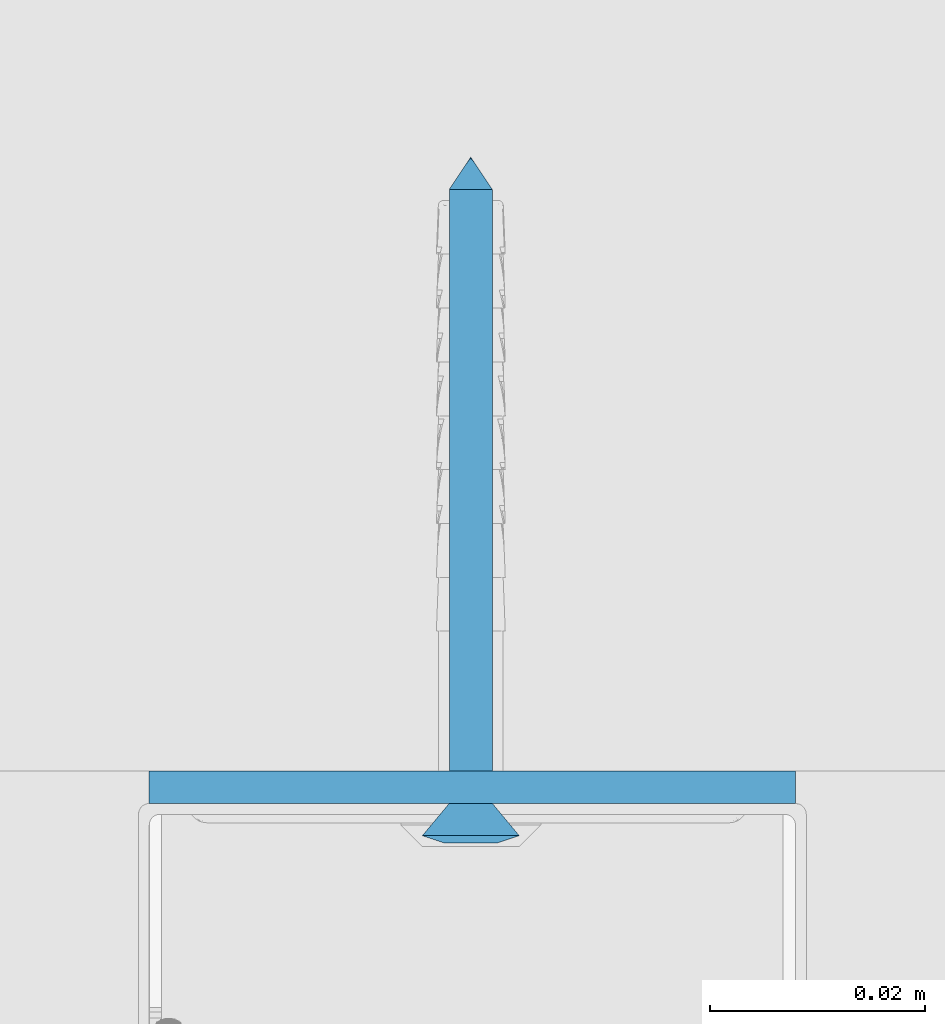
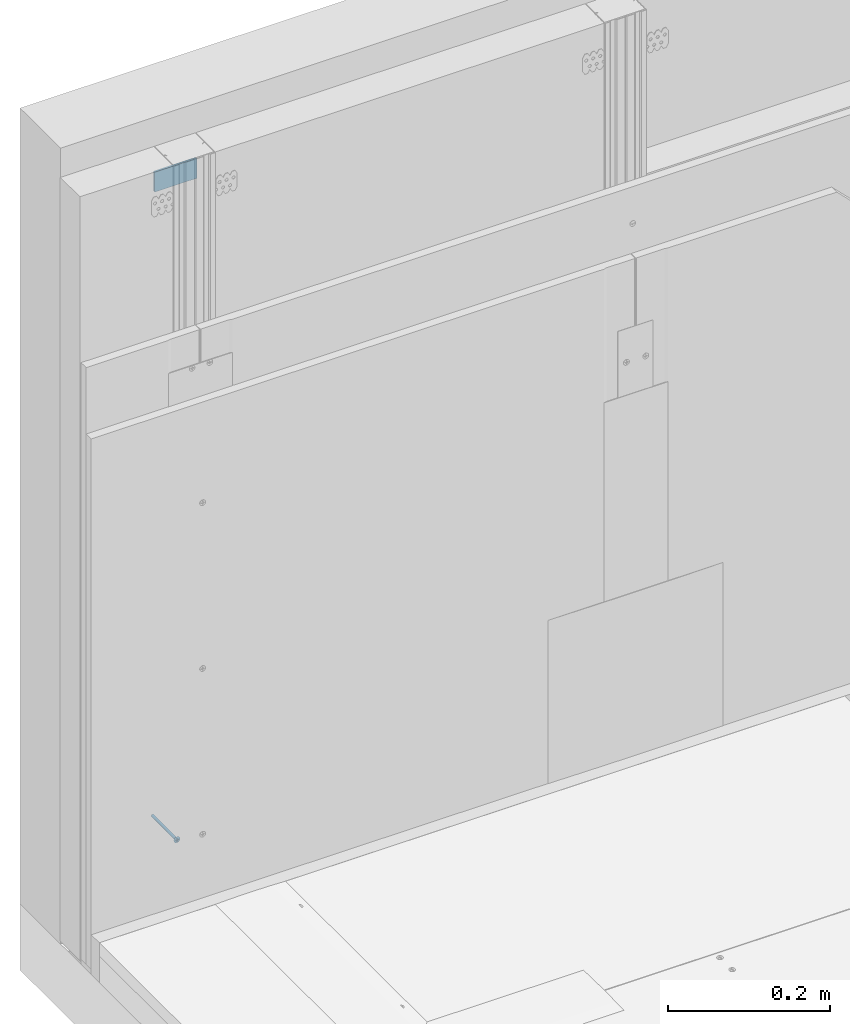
# One storey, part 32 of 47: 2 walls.
"""IFC2X3 building model written with IfcOpenShell, lengths in millimetres."""

from ifc_helpers import new_model, entity, si_unit, converted_unit, direction, frame, origin, origin_with_axes, place, context, project, spatial, faceted_brep, element, save


model = new_model("IFC2X3")

# Units and contexts
model_context = context("Model", 3, precision=1e-05, world=origin(), true_north=direction((0.0, 1.0, 0.0)))
ifc_project = project(units=[si_unit("LENGTHUNIT", "METRE", prefix="MILLI"), si_unit("AREAUNIT", "SQUARE_METRE"), si_unit("VOLUMEUNIT", "CUBIC_METRE"), converted_unit("PLANEANGLEUNIT", "DEGREE", entity("IfcPlaneAngleMeasure", 0.01745), si_unit("PLANEANGLEUNIT", "RADIAN"), dimensions=[0, 0, 0, 0, 0, 0, 0]), si_unit("SOLIDANGLEUNIT", "STERADIAN"), si_unit("MASSUNIT", "GRAM"), si_unit("TIMEUNIT", "SECOND"), si_unit("THERMODYNAMICTEMPERATUREUNIT", "DEGREE_CELSIUS"), si_unit("LUMINOUSINTENSITYUNIT", "LUMEN")], contexts=[model_context])

# Site, building, storey
site_placement = place(None, origin_with_axes())
site = spatial("IfcSite", under=ifc_project, at=site_placement, Name="Default Site", CompositionType="ELEMENT")
building_placement = place(site_placement, origin_with_axes())
building = spatial("IfcBuilding", under=site, at=building_placement, Name="Default Building", CompositionType="ELEMENT")
storey_placement = place(building_placement, origin_with_axes())
storey = spatial("IfcBuildingStorey", under=building, at=storey_placement, Name="Default Building Storey", CompositionType="ELEMENT", Elevation=0.0)

# Walls
wall_1_placement = place(storey_placement, frame((2258.12456361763, 2019.778611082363, 1120.960248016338), z_axis=(0.0, 0.0, 1.0), x_axis=(1.0, 0.0, 0.0)))
element("IfcWall", 1, at=wall_1_placement, inside=storey, Name="Taśma uszczelniająca piankowa RIGIPS szer.30mm", context=model_context, shape_type="Brep", body=[
    faceted_brep([(59.99999999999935, 0.0, 4.511946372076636e-12), (0.0, 0.0, 0.0), (1.082867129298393e-12, -2.237925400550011e-11, -30.00000000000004), (60.00000000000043, -2.237925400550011e-11, -29.99999999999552), (0.0, 3.00000000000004, 0.0), (1.082867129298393e-12, 2.999999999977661, -30.00000000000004), (60.00000000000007, 3.00000000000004, 0.0), (60.00000000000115, 2.999999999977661, -30.00000000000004)], [[[0, 1, 2, 3]], [[1, 4, 5, 2]], [[4, 6, 7, 5]], [[6, 0, 3, 7]], [[7, 3, 2, 5]], [[0, 6, 4, 1]]]),
])
wall_2_placement = place(storey_placement, frame((5741.263760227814, 2016.32861108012, 1539.671890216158), z_axis=(-6.858158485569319e-13, -1.0, 7.642380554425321e-14), x_axis=(-1.647602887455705e-11, 7.642380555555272e-14, 1.0)))
element("IfcWall", 2, at=wall_2_placement, inside=storey, Name="Kołek rozporowy min. fi 6", context=model_context, shape_type="Brep", body=[
    faceted_brep([(-1438.31414949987, 3453.283223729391, -0.4642567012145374), (-1435.814149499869, 3453.283223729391, -3.464256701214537), (-1435.78952618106, 3452.97035479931, -3.464256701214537), (-1438.258747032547, 3452.57926863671, -0.4642567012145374), (-1435.71626253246, 3452.665189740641, -3.464256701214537), (-1438.093903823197, 3451.892647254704, -0.4642567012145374), (-1435.596162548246, 3452.375242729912, -3.464256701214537), (-1437.823678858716, 3451.240266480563, -0.4642567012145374), (-1435.432183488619, 3452.107653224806, -3.464256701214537), (-1437.454725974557, 3450.638190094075, -0.4642567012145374), (-1435.228363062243, 3451.869010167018, -3.464256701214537), (-1436.996130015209, 3450.101243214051, -0.4642567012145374), (-1434.989720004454, 3451.665189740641, -3.464256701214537), (-1436.459183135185, 3449.642647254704, -0.4642567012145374), (-1434.722130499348, 3451.501210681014, -3.464256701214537), (-1435.857106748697, 3449.273694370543, -0.4642567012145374), (-1434.432183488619, 3451.381110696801, -3.464256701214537), (-1435.204725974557, 3449.003469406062, -0.4642567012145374), (-1434.12701842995, 3451.307847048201, -3.464256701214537), (-1434.51810459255, 3448.838626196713, -0.4642567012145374), (-1433.814149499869, 3451.283223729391, -3.464256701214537), (-1433.814149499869, 3448.783223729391, -0.4642567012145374), (-1433.501280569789, 3451.307847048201, -3.464256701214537), (-1433.110194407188, 3448.838626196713, -0.4642567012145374), (-1433.19611551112, 3451.381110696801, -3.464256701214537), (-1432.423573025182, 3449.003469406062, -0.4642567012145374), (-1432.906168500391, 3451.501210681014, -3.464256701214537), (-1431.771192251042, 3449.273694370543, -0.4642567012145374), (-1432.638578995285, 3451.665189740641, -3.464256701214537), (-1431.169115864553, 3449.642647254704, -0.4642567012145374), (-1432.399935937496, 3451.869010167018, -3.464256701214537), (-1430.63216898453, 3450.101243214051, -0.4642567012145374), (-1432.196115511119, 3452.107653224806, -3.464256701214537), (-1430.173573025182, 3450.638190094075, -0.4642567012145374), (-1432.032136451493, 3452.375242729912, -3.464256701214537), (-1429.804620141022, 3451.240266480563, -0.4642567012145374), (-1431.912036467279, 3452.665189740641, -3.464256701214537), (-1429.534395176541, 3451.892647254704, -0.4642567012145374), (-1431.838772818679, 3453.596092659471, -3.464256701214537), (-1429.369551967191, 3453.987178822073, -0.4642567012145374), (-1429.314149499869, 3453.283223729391, -0.4642567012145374), (-1431.81414949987, 3453.283223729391, -3.464256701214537), (-1429.369551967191, 3452.57926863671, -0.4642567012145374), (-1431.838772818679, 3452.97035479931, -3.464256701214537), (-1431.912036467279, 3453.901257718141, -3.464256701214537), (-1429.534395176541, 3454.673800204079, -0.4642567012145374), (-1432.032136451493, 3454.19120472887, -3.464256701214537), (-1429.804620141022, 3455.326180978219, -0.4642567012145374), (-1432.196115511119, 3454.458794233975, -3.464256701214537), (-1430.173573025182, 3455.928257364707, -0.4642567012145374), (-1432.399935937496, 3454.697437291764, -3.464256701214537), (-1430.63216898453, 3456.465204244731, -0.4642567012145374), (-1432.638578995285, 3454.901257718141, -3.464256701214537), (-1431.169115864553, 3456.923800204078, -0.4642567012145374), (-1432.906168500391, 3455.065236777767, -3.464256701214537), (-1431.771192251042, 3457.292753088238, -0.4642567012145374), (-1433.19611551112, 3455.185336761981, -3.464256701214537), (-1432.423573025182, 3457.562978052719, -0.4642567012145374), (-1433.501280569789, 3455.258600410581, -3.464256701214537), (-1433.110194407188, 3457.727821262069, -0.4642567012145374), (-1433.814149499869, 3455.283223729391, -3.464256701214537), (-1433.814149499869, 3457.783223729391, -0.4642567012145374), (-1434.34306778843, 3457.752031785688, -0.4642567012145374), (-1434.12701842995, 3455.258600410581, -3.464256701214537), (-1434.432183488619, 3455.185336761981, -3.464256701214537), (-1434.864653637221, 3457.658888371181, -0.4642567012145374), (-1435.371676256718, 3457.505084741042, -0.4642567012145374), (-1434.722130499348, 3455.065236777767, -3.464256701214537), (-1435.857106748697, 3457.292753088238, -0.4642567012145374), (-1434.989720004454, 3454.901257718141, -3.464256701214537), (-1435.228363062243, 3454.697437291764, -3.464256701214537), (-1436.314215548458, 3457.024836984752, -0.4642567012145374), (-1436.736665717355, 3456.705050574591, -0.4642567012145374), (-1437.11860079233, 3456.337827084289, -0.4642567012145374), (-1437.454725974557, 3455.928257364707, -0.4642567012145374), (-1435.432183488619, 3454.458794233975, -3.464256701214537), (-1435.596162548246, 3454.19120472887, -3.464256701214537), (-1437.823678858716, 3455.326180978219, -0.4642567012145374), (-1435.71626253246, 3453.901257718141, -3.464256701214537), (-1438.093903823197, 3454.673800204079, -0.4642567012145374), (-1435.78952618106, 3453.596092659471, -3.464256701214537), (-1438.258747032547, 3453.987178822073, -0.4642567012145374), (-1434.205235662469, 3455.752444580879, 0.2007375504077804), (-1433.814149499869, 3455.78322372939, 0.2007375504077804), (-1434.586691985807, 3455.660865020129, 0.2007375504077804), (-1434.949125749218, 3455.510740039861, 0.2007375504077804), (-1435.283612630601, 3455.305766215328, 0.2007375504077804), (-1435.581916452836, 3455.050990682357, 0.2007375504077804), (-1435.836691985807, 3454.752686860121, 0.2007375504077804), (-1436.04166581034, 3454.41819997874, 0.2007375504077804), (-1436.191790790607, 3454.055766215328, 0.2007375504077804), (-1436.283370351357, 3453.674309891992, 0.2007375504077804), (-1436.314149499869, 3453.283223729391, 0.2007375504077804), (-1436.283370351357, 3452.892137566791, 0.2007375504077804), (-1436.191790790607, 3452.510681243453, 0.2007375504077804), (-1436.04166581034, 3452.148247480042, 0.2007375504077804), (-1435.836691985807, 3451.81376059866, 0.200737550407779), (-1435.581916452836, 3451.515456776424, 0.2007375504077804), (-1435.283612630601, 3451.260681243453, 0.2007375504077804), (-1434.949125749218, 3451.05570741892, 0.2007375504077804), (-1434.586691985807, 3450.905582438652, 0.2007375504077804), (-1433.423063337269, 3450.814002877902, 0.2007375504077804), (-1433.814149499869, 3450.783223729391, 0.2007375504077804), (-1434.205235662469, 3450.814002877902, 0.2007375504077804), (-1433.041607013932, 3450.905582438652, 0.2007375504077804), (-1432.67917325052, 3451.05570741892, 0.2007375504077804), (-1432.344686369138, 3451.260681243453, 0.2007375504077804), (-1432.046382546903, 3451.515456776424, 0.2007375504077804), (-1431.791607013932, 3451.81376059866, 0.2007375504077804), (-1431.586633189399, 3452.148247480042, 0.2007375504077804), (-1431.436508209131, 3452.510681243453, 0.2007375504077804), (-1431.344928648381, 3452.892137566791, 0.2007375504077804), (-1431.314149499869, 3453.283223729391, 0.2007375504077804), (-1431.344928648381, 3453.674309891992, 0.2007375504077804), (-1431.436508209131, 3454.055766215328, 0.2007375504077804), (-1431.586633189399, 3454.41819997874, 0.2007375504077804), (-1431.791607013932, 3454.752686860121, 0.2007375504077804), (-1432.046382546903, 3455.050990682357, 0.2007375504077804), (-1432.344686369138, 3455.305766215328, 0.2007375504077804), (-1432.67917325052, 3455.510740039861, 0.2007375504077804), (-1433.041607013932, 3455.660865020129, 0.2007375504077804), (-1433.423063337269, 3455.752444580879, 0.2007375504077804), (-1433.814149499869, 3453.283223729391, -63.46425670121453), (-1435.789526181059, 3452.97035479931, -60.46425670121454), (-1435.814149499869, 3453.283223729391, -60.46425670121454), (-1435.716262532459, 3452.665189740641, -60.46425670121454), (-1435.596162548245, 3452.375242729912, -60.46425670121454), (-1435.432183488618, 3452.107653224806, -60.46425670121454), (-1435.228363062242, 3451.869010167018, -60.46425670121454), (-1434.989720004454, 3451.665189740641, -60.46425670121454), (-1434.722130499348, 3451.501210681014, -60.46425670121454), (-1434.432183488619, 3451.381110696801, -60.46425670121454), (-1434.127018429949, 3451.307847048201, -60.46425670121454), (-1433.814149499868, 3451.283223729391, -60.46425670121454), (-1433.501280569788, 3451.307847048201, -60.46425670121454), (-1433.196115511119, 3451.381110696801, -60.46425670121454), (-1432.90616850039, 3451.501210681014, -60.46425670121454), (-1432.638578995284, 3451.665189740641, -60.46425670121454), (-1432.399935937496, 3451.869010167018, -60.46425670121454), (-1432.196115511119, 3452.107653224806, -60.46425670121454), (-1432.032136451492, 3452.375242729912, -60.46425670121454), (-1431.912036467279, 3452.665189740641, -60.46425670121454), (-1431.838772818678, 3452.97035479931, -60.46425670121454), (-1431.814149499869, 3453.283223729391, -60.46425670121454), (-1431.838772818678, 3453.596092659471, -60.46425670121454), (-1431.912036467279, 3453.901257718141, -60.46425670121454), (-1432.032136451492, 3454.19120472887, -60.46425670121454), (-1432.196115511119, 3454.458794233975, -60.46425670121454), (-1432.399935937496, 3454.697437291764, -60.46425670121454), (-1432.638578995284, 3454.901257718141, -60.46425670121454), (-1432.90616850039, 3455.065236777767, -60.46425670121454), (-1433.196115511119, 3455.185336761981, -60.46425670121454), (-1433.501280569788, 3455.258600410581, -60.46425670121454), (-1433.814149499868, 3455.283223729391, -60.46425670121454), (-1434.127018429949, 3455.258600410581, -60.46425670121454), (-1434.432183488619, 3455.185336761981, -60.46425670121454), (-1434.722130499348, 3455.065236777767, -60.46425670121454), (-1434.989720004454, 3454.901257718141, -60.46425670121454), (-1435.228363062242, 3454.697437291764, -60.46425670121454), (-1435.432183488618, 3454.458794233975, -60.46425670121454), (-1435.596162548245, 3454.19120472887, -60.46425670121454), (-1435.716262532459, 3453.901257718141, -60.46425670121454), (-1435.789526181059, 3453.596092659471, -60.46425670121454), (-1435.814149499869, 3453.783223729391, 0.04999999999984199), (-1436.04166581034, 3454.41819997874, 0.04999999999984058), (-1436.191790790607, 3454.055766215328, 0.04999999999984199), (-1435.814149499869, 3452.783223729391, 0.04999999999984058), (-1434.314149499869, 3453.783223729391, 0.04999999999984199), (-1434.314149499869, 3455.28322372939, 0.04999999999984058), (-1433.314149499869, 3455.28322372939, 0.04999999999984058), (-1433.314149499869, 3453.783223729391, 0.04999999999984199), (-1431.814149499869, 3453.783223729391, 0.04999999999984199), (-1431.814149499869, 3452.783223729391, 0.04999999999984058), (-1433.314149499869, 3452.783223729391, 0.04999999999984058), (-1433.314149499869, 3451.283223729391, 0.04999999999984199), (-1434.314149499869, 3451.283223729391, 0.04999999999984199), (-1434.314149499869, 3452.783223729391, 0.04999999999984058), (-1436.283370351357, 3453.674309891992, 0.04999999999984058), (-1436.314149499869, 3453.283223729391, 0.04999999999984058), (-1436.283370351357, 3452.892137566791, 0.04999999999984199), (-1436.191790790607, 3452.510681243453, 0.04999999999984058), (-1436.04166581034, 3452.148247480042, 0.04999999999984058), (-1435.836691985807, 3451.81376059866, 0.04999999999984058), (-1435.581916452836, 3451.515456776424, 0.04999999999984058), (-1435.283612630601, 3451.260681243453, 0.04999999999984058), (-1434.949125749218, 3451.05570741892, 0.04999999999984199), (-1434.586691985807, 3450.905582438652, 0.04999999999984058), (-1434.205235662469, 3450.814002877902, 0.04999999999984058), (-1433.814149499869, 3450.783223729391, 0.04999999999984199), (-1433.423063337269, 3450.814002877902, 0.04999999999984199), (-1433.041607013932, 3450.905582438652, 0.04999999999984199), (-1432.67917325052, 3451.05570741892, 0.04999999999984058), (-1432.344686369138, 3451.260681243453, 0.04999999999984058), (-1432.046382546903, 3451.515456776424, 0.04999999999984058), (-1431.791607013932, 3451.81376059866, 0.04999999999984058), (-1431.586633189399, 3452.148247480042, 0.04999999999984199), (-1431.436508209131, 3452.510681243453, 0.04999999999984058), (-1431.344928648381, 3452.892137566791, 0.04999999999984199), (-1431.314149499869, 3453.283223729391, 0.04999999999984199), (-1431.344928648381, 3453.674309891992, 0.04999999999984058), (-1431.436508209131, 3454.055766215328, 0.04999999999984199), (-1431.586633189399, 3454.41819997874, 0.04999999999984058), (-1431.791607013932, 3454.752686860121, 0.04999999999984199), (-1432.046382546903, 3455.050990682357, 0.04999999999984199), (-1432.344686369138, 3455.305766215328, 0.04999999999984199), (-1432.67917325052, 3455.510740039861, 0.04999999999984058), (-1433.041607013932, 3455.660865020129, 0.04999999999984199), (-1433.423063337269, 3455.752444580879, 0.04999999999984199), (-1433.814149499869, 3455.78322372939, 0.04999999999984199), (-1434.205235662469, 3455.752444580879, 0.04999999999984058), (-1434.586691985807, 3455.660865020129, 0.04999999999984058), (-1434.949125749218, 3455.510740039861, 0.04999999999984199), (-1435.283612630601, 3455.305766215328, 0.04999999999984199), (-1435.581916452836, 3455.050990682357, 0.04999999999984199), (-1435.836691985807, 3454.752686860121, 0.04999999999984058), (-1434.314149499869, 3452.783223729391, -1.79926244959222), (-1434.314149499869, 3451.283223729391, -1.799262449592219), (-1433.314149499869, 3451.283223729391, -1.799262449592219), (-1433.314149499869, 3452.783223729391, -1.79926244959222), (-1431.81414949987, 3452.783223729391, -1.79926244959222), (-1431.81414949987, 3453.783223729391, -1.799262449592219), (-1433.314149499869, 3453.783223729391, -1.799262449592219), (-1433.314149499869, 3455.28322372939, -1.79926244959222), (-1434.314149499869, 3455.28322372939, -1.79926244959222), (-1434.314149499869, 3453.783223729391, -1.799262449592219), (-1435.814149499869, 3453.783223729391, -1.799262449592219), (-1435.814149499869, 3452.783223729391, -1.79926244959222)], [[[0, 1, 2, 3]], [[4, 5, 3, 2]], [[6, 7, 5, 4]], [[7, 6, 8, 9]], [[10, 11, 9, 8]], [[11, 10, 12, 13]], [[14, 15, 13, 12]], [[16, 17, 15, 14]], [[17, 16, 18, 19]], [[20, 21, 19, 18]], [[21, 20, 22, 23]], [[24, 25, 23, 22]], [[26, 27, 25, 24]], [[27, 26, 28, 29]], [[30, 31, 29, 28]], [[31, 30, 32, 33]], [[34, 35, 33, 32]], [[36, 37, 35, 34]], [[38, 39, 40, 41]], [[41, 40, 42, 43]], [[37, 36, 43, 42]], [[44, 45, 39, 38]], [[46, 47, 45, 44]], [[47, 46, 48, 49]], [[50, 51, 49, 48]], [[51, 50, 52, 53]], [[54, 55, 53, 52]], [[56, 57, 55, 54]], [[57, 56, 58, 59]], [[60, 61, 59, 58]], [[62, 61, 63]], [[61, 60, 63]], [[63, 64, 62]], [[64, 65, 62]], [[66, 65, 64]], [[64, 67, 66]], [[67, 68, 66]], [[69, 70, 71]], [[70, 72, 71]], [[71, 68, 69]], [[68, 67, 69]], [[70, 73, 72]], [[74, 73, 75]], [[73, 70, 75]], [[76, 77, 74, 75]], [[78, 79, 77, 76]], [[79, 78, 80, 81]], [[1, 0, 81, 80]], [[82, 83, 62]], [[83, 61, 62]], [[62, 65, 82]], [[65, 84, 82]], [[66, 68, 84]], [[68, 85, 84]], [[84, 65, 66]], [[86, 85, 71]], [[85, 68, 71]], [[72, 73, 87]], [[87, 86, 72]], [[86, 71, 72]], [[88, 87, 74]], [[87, 73, 74]], [[77, 89, 88, 74]], [[79, 90, 89, 77]], [[90, 79, 81, 91]], [[0, 92, 91, 81]], [[92, 0, 3, 93]], [[5, 94, 93, 3]], [[7, 95, 94, 5]], [[95, 7, 9, 96]], [[11, 97, 96, 9]], [[97, 11, 13, 98]], [[15, 99, 98, 13]], [[17, 100, 99, 15]], [[23, 101, 102, 21]], [[21, 102, 103, 19]], [[100, 17, 19, 103]], [[25, 104, 101, 23]], [[27, 105, 104, 25]], [[105, 27, 29, 106]], [[31, 107, 106, 29]], [[107, 31, 33, 108]], [[35, 109, 108, 33]], [[37, 110, 109, 35]], [[110, 37, 42, 111]], [[40, 112, 111, 42]], [[112, 40, 39, 113]], [[45, 114, 113, 39]], [[47, 115, 114, 45]], [[115, 47, 49, 116]], [[51, 117, 116, 49]], [[117, 51, 53, 118]], [[55, 119, 118, 53]], [[57, 120, 119, 55]], [[120, 57, 59, 121]], [[61, 83, 121, 59]], [[122, 123, 124]], [[122, 125, 123]], [[122, 126, 125]], [[127, 126, 122]], [[122, 128, 127]], [[129, 128, 122]], [[122, 130, 129]], [[122, 131, 130]], [[132, 131, 122]], [[122, 133, 132]], [[134, 133, 122]], [[122, 135, 134]], [[122, 136, 135]], [[137, 136, 122]], [[122, 138, 137]], [[139, 138, 122]], [[122, 140, 139]], [[122, 141, 140]], [[142, 141, 122]], [[122, 143, 142]], [[144, 143, 122]], [[122, 145, 144]], [[122, 146, 145]], [[147, 146, 122]], [[122, 148, 147]], [[149, 148, 122]], [[122, 150, 149]], [[122, 151, 150]], [[152, 151, 122]], [[122, 153, 152]], [[154, 153, 122]], [[122, 155, 154]], [[122, 156, 155]], [[157, 156, 122]], [[122, 158, 157]], [[159, 158, 122]], [[122, 160, 159]], [[122, 161, 160]], [[162, 161, 122]], [[124, 162, 122]], [[1, 124, 123, 2]], [[125, 4, 2, 123]], [[126, 6, 4, 125]], [[6, 126, 127, 8]], [[128, 10, 8, 127]], [[10, 128, 129, 12]], [[130, 14, 12, 129]], [[131, 16, 14, 130]], [[16, 131, 132, 18]], [[133, 20, 18, 132]], [[20, 133, 134, 22]], [[135, 24, 22, 134]], [[136, 26, 24, 135]], [[26, 136, 137, 28]], [[138, 30, 28, 137]], [[30, 138, 139, 32]], [[140, 34, 32, 139]], [[141, 36, 34, 140]], [[144, 38, 41, 143]], [[143, 41, 43, 142]], [[36, 141, 142, 43]], [[145, 44, 38, 144]], [[146, 46, 44, 145]], [[46, 146, 147, 48]], [[148, 50, 48, 147]], [[50, 148, 149, 52]], [[150, 54, 52, 149]], [[151, 56, 54, 150]], [[56, 151, 152, 58]], [[153, 60, 58, 152]], [[60, 153, 154, 63]], [[155, 64, 63, 154]], [[156, 67, 64, 155]], [[67, 156, 157, 69]], [[158, 70, 69, 157]], [[70, 158, 159, 75]], [[160, 76, 75, 159]], [[161, 78, 76, 160]], [[78, 161, 162, 80]], [[124, 1, 80, 162]], [[163, 164, 165, 166]], [[163, 167, 168, 169, 170, 171, 172, 173, 174, 175, 176, 166, 165, 177, 178, 179, 180, 181, 182, 183, 184, 185, 186, 187, 188, 189, 190, 191, 192, 193, 194, 195, 196, 197, 198, 199, 200, 201, 202, 203, 204, 205, 206, 207, 208, 209, 210, 211, 212, 213, 214, 164]], [[199, 198, 112, 113]], [[113, 114, 200, 199]], [[114, 115, 201, 200]], [[202, 201, 115, 116]], [[116, 117, 203, 202]], [[204, 203, 117, 118]], [[118, 119, 205, 204]], [[119, 120, 206, 205]], [[207, 206, 120, 121]], [[121, 83, 208, 207]], [[209, 208, 83, 82]], [[82, 84, 210, 209]], [[84, 85, 211, 210]], [[212, 211, 85, 86]], [[86, 87, 213, 212]], [[214, 213, 87, 88]], [[88, 89, 164, 214]], [[89, 90, 165, 164]], [[92, 93, 179, 178]], [[91, 92, 178, 177]], [[177, 165, 90, 91]], [[93, 94, 180, 179]], [[94, 95, 181, 180]], [[182, 181, 95, 96]], [[96, 97, 183, 182]], [[184, 183, 97, 98]], [[98, 99, 185, 184]], [[99, 100, 186, 185]], [[187, 186, 100, 103]], [[103, 102, 188, 187]], [[189, 188, 102, 101]], [[101, 104, 190, 189]], [[104, 105, 191, 190]], [[192, 191, 105, 106]], [[106, 107, 193, 192]], [[194, 193, 107, 108]], [[108, 109, 195, 194]], [[109, 110, 196, 195]], [[197, 196, 110, 111]], [[111, 112, 198, 197]], [[215, 216, 217, 218, 219, 220, 221, 222, 223, 224, 225, 226]], [[216, 175, 174, 217]], [[215, 176, 175, 216]], [[226, 166, 176, 215]], [[225, 163, 166, 226]], [[224, 167, 163, 225]], [[223, 168, 167, 224]], [[222, 169, 168, 223]], [[221, 170, 169, 222]], [[220, 171, 170, 221]], [[219, 172, 171, 220]], [[218, 173, 172, 219]], [[217, 174, 173, 218]]]),
])

save(model, "model.ifc")
